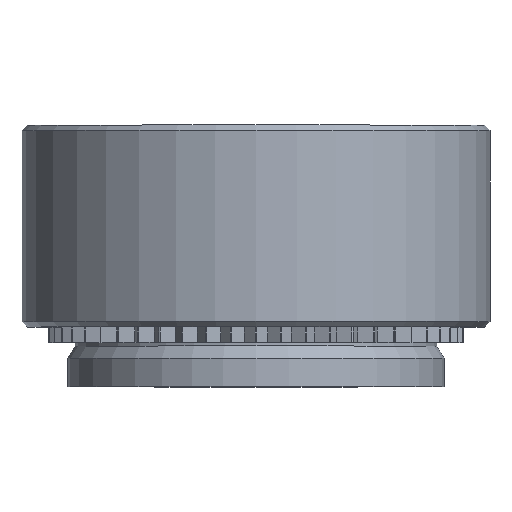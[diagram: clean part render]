
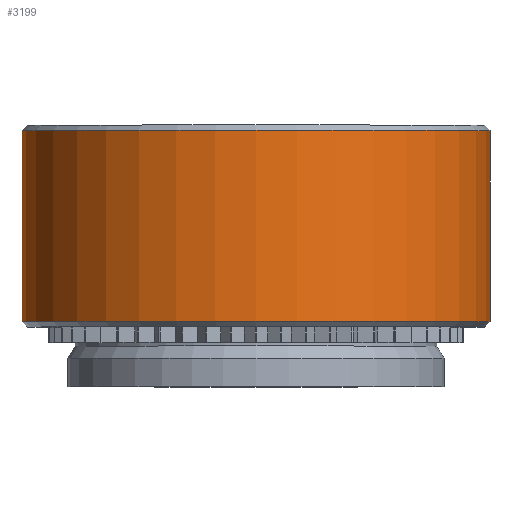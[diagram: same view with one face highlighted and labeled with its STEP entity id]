
A CAD part, top view. The second image highlights one B-rep face of the part: STEP entity #3199.
In plain terms, the highlighted cylindrical face has radius 8.675 mm (diameter 17.35 mm), a full revolution.
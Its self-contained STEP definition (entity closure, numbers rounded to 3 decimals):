
#127=CYLINDRICAL_SURFACE('',#3394,8.675);
#184=FACE_OUTER_BOUND('',#353,.T.);
#353=EDGE_LOOP('',(#2214,#2215,#2216,#2217,#2218,#2219));
#526=LINE('',#4643,#899);
#899=VECTOR('',#3695,8.675);
#1271=CIRCLE('',#3391,8.675);
#1272=CIRCLE('',#3392,8.675);
#1274=CIRCLE('',#3395,8.675);
#1275=CIRCLE('',#3396,8.675);
#1390=VERTEX_POINT('',#4631);
#1391=VERTEX_POINT('',#4632);
#1393=VERTEX_POINT('',#4639);
#1394=VERTEX_POINT('',#4640);
#1717=EDGE_CURVE('',#1390,#1391,#1271,.T.);
#1718=EDGE_CURVE('',#1391,#1390,#1272,.T.);
#1721=EDGE_CURVE('',#1393,#1394,#1274,.T.);
#1722=EDGE_CURVE('',#1394,#1393,#1275,.T.);
#1723=EDGE_CURVE('',#1394,#1391,#526,.T.);
#2214=ORIENTED_EDGE('',*,*,#1721,.F.);
#2215=ORIENTED_EDGE('',*,*,#1722,.F.);
#2216=ORIENTED_EDGE('',*,*,#1723,.T.);
#2217=ORIENTED_EDGE('',*,*,#1717,.F.);
#2218=ORIENTED_EDGE('',*,*,#1718,.F.);
#2219=ORIENTED_EDGE('',*,*,#1723,.F.);
#3199=ADVANCED_FACE('',(#184),#127,.T.);
#3391=AXIS2_PLACEMENT_3D('',#4633,#3682,#3683);
#3392=AXIS2_PLACEMENT_3D('',#4634,#3684,#3685);
#3394=AXIS2_PLACEMENT_3D('',#4638,#3689,#3690);
#3395=AXIS2_PLACEMENT_3D('',#4641,#3691,#3692);
#3396=AXIS2_PLACEMENT_3D('',#4642,#3693,#3694);
#3682=DIRECTION('center_axis',(0.,-1.,0.));
#3683=DIRECTION('ref_axis',(1.,0.,0.));
#3684=DIRECTION('center_axis',(0.,-1.,0.));
#3685=DIRECTION('ref_axis',(1.,0.,0.));
#3689=DIRECTION('center_axis',(0.,1.,0.));
#3690=DIRECTION('ref_axis',(-1.,0.,0.));
#3691=DIRECTION('center_axis',(0.,1.,0.));
#3692=DIRECTION('ref_axis',(1.,0.,0.));
#3693=DIRECTION('center_axis',(0.,1.,0.));
#3694=DIRECTION('ref_axis',(1.,0.,0.));
#3695=DIRECTION('',(0.,-1.,0.));
#4631=CARTESIAN_POINT('',(-8.675,2.41,0.));
#4632=CARTESIAN_POINT('',(8.675,2.41,0.));
#4633=CARTESIAN_POINT('Origin',(0.,2.41,0.));
#4634=CARTESIAN_POINT('Origin',(0.,2.41,0.));
#4638=CARTESIAN_POINT('Origin',(0.,5.95,0.));
#4639=CARTESIAN_POINT('',(-8.675,9.49,0.));
#4640=CARTESIAN_POINT('',(8.675,9.49,0.));
#4641=CARTESIAN_POINT('Origin',(0.,9.49,0.));
#4642=CARTESIAN_POINT('Origin',(0.,9.49,0.));
#4643=CARTESIAN_POINT('',(8.675,5.95,0.));
